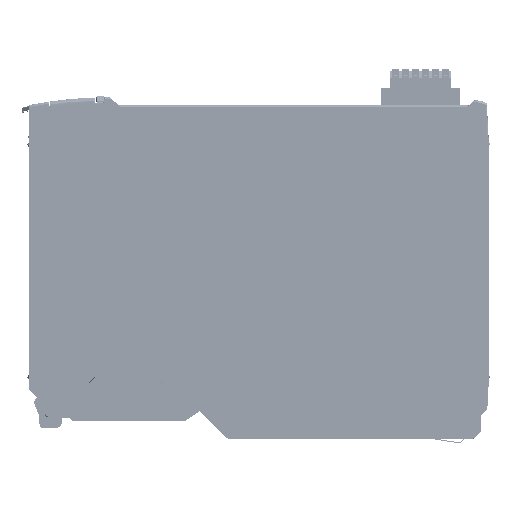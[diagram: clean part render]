
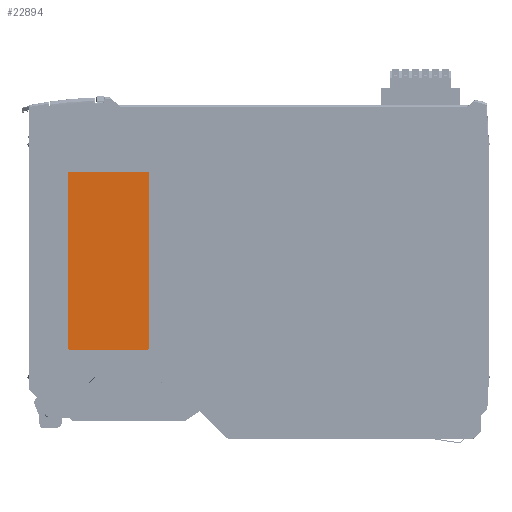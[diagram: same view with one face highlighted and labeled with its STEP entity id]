
A CAD part, left-side view. The second image highlights one B-rep face of the part: STEP entity #22894.
In plain terms, the highlighted planar face has unit normal (-1, 0, 0) as drawn and (0, 0, -1) by its records, which use the part's own axes.
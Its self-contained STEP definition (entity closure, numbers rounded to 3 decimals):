
#2675 = EDGE_CURVE ( 'NONE', #42783, #20059, #66615, .T. ) ;
#11491 = CARTESIAN_POINT ( 'NONE',  ( 37.732, 96.037, 0.3 ) ) ;
#19708 = ORIENTED_EDGE ( 'NONE', *, *, #163899, .T. ) ;
#20059 = VERTEX_POINT ( 'NONE', #65282 ) ;
#20936 = AXIS2_PLACEMENT_3D ( 'NONE', #270732, #159080, #109413 ) ;
#22894 = ADVANCED_FACE ( 'NONE', ( #146710 ), #56826, .T. ) ;
#23626 = DIRECTION ( 'NONE',  ( 0., 0., -1. ) ) ;
#25197 = DIRECTION ( 'NONE',  ( -1., 0., 0. ) ) ;
#29220 = DIRECTION ( 'NONE',  ( 0., 0., -1. ) ) ;
#40277 = VERTEX_POINT ( 'NONE', #78127 ) ;
#42783 = VERTEX_POINT ( 'NONE', #78186 ) ;
#46381 = AXIS2_PLACEMENT_3D ( 'NONE', #207510, #202940, #227734 ) ;
#51483 = LINE ( 'NONE', #141461, #192765 ) ;
#56826 = PLANE ( 'NONE',  #20936 ) ;
#59729 = VERTEX_POINT ( 'NONE', #91949 ) ;
#65282 = CARTESIAN_POINT ( 'NONE',  ( -52.268, 95.037, 0.3 ) ) ;
#65520 = AXIS2_PLACEMENT_3D ( 'NONE', #196608, #29220, #100488 ) ;
#66615 = LINE ( 'NONE', #204628, #305880 ) ;
#67120 = DIRECTION ( 'NONE',  ( 0., -1., 0. ) ) ;
#76177 = VECTOR ( 'NONE', #67120, 1000. ) ;
#76894 = EDGE_CURVE ( 'NONE', #244991, #114485, #254159, .T. ) ;
#78127 = CARTESIAN_POINT ( 'NONE',  ( 37.732, 95.037, 0.3 ) ) ;
#78186 = CARTESIAN_POINT ( 'NONE',  ( -52.268, 56.237, 0.3 ) ) ;
#91949 = CARTESIAN_POINT ( 'NONE',  ( 36.732, 96.037, 0.3 ) ) ;
#98796 = ORIENTED_EDGE ( 'NONE', *, *, #76894, .T. ) ;
#100488 = DIRECTION ( 'NONE',  ( 0., 1., 0. ) ) ;
#109413 = DIRECTION ( 'NONE',  ( 0., 1., 0. ) ) ;
#113251 = AXIS2_PLACEMENT_3D ( 'NONE', #301228, #23626, #118089 ) ;
#114485 = VERTEX_POINT ( 'NONE', #139251 ) ;
#118089 = DIRECTION ( 'NONE',  ( 0., 1., 0. ) ) ;
#118157 = DIRECTION ( 'NONE',  ( 0., 0., -1. ) ) ;
#121342 = VERTEX_POINT ( 'NONE', #250172 ) ;
#121357 = EDGE_CURVE ( 'NONE', #121342, #42783, #158312, .T. ) ;
#121367 = EDGE_CURVE ( 'NONE', #114485, #121342, #51483, .T. ) ;
#124856 = ORIENTED_EDGE ( 'NONE', *, *, #2675, .T. ) ;
#128656 = EDGE_CURVE ( 'NONE', #20059, #174929, #143148, .T. ) ;
#129884 = ORIENTED_EDGE ( 'NONE', *, *, #128656, .T. ) ;
#135358 = LINE ( 'NONE', #158652, #76177 ) ;
#139251 = CARTESIAN_POINT ( 'NONE',  ( 36.732, 55.237, 0.3 ) ) ;
#141461 = CARTESIAN_POINT ( 'NONE',  ( 37.732, 55.237, 0.3 ) ) ;
#143148 = CIRCLE ( 'NONE', #113251, 1. ) ;
#144456 = CARTESIAN_POINT ( 'NONE',  ( -51.268, 56.237, 0.3 ) ) ;
#146710 = FACE_OUTER_BOUND ( 'NONE', #251459, .T. ) ;
#158312 = CIRCLE ( 'NONE', #291989, 1. ) ;
#158652 = CARTESIAN_POINT ( 'NONE',  ( 37.732, 96.037, 0.3 ) ) ;
#159080 = DIRECTION ( 'NONE',  ( 0., 0., -1. ) ) ;
#159608 = CIRCLE ( 'NONE', #65520, 1. ) ;
#163899 = EDGE_CURVE ( 'NONE', #40277, #244991, #135358, .T. ) ;
#164772 = DIRECTION ( 'NONE',  ( 0., 1., 0. ) ) ;
#174929 = VERTEX_POINT ( 'NONE', #240859 ) ;
#179287 = EDGE_CURVE ( 'NONE', #59729, #40277, #159608, .T. ) ;
#180450 = DIRECTION ( 'NONE',  ( 1., 0., 0. ) ) ;
#192765 = VECTOR ( 'NONE', #25197, 1000. ) ;
#196608 = CARTESIAN_POINT ( 'NONE',  ( 36.732, 95.037, 0.3 ) ) ;
#202940 = DIRECTION ( 'NONE',  ( 0., 0., -1. ) ) ;
#204628 = CARTESIAN_POINT ( 'NONE',  ( -52.268, 96.037, 0.3 ) ) ;
#207318 = ORIENTED_EDGE ( 'NONE', *, *, #121357, .T. ) ;
#207510 = CARTESIAN_POINT ( 'NONE',  ( 36.732, 56.237, 0.3 ) ) ;
#210999 = CARTESIAN_POINT ( 'NONE',  ( 37.732, 56.237, 0.3 ) ) ;
#221300 = ORIENTED_EDGE ( 'NONE', *, *, #121367, .T. ) ;
#226690 = ORIENTED_EDGE ( 'NONE', *, *, #179287, .T. ) ;
#227734 = DIRECTION ( 'NONE',  ( 0., 1., 0. ) ) ;
#230922 = DIRECTION ( 'NONE',  ( 0., 1., 0. ) ) ;
#234023 = VECTOR ( 'NONE', #180450, 1000. ) ;
#240859 = CARTESIAN_POINT ( 'NONE',  ( -51.268, 96.037, 0.3 ) ) ;
#244991 = VERTEX_POINT ( 'NONE', #210999 ) ;
#247077 = LINE ( 'NONE', #11491, #234023 ) ;
#250172 = CARTESIAN_POINT ( 'NONE',  ( -51.268, 55.237, 0.3 ) ) ;
#251112 = EDGE_CURVE ( 'NONE', #174929, #59729, #247077, .T. ) ;
#251459 = EDGE_LOOP ( 'NONE', ( #19708, #98796, #221300, #207318, #124856, #129884, #273226, #226690 ) ) ;
#254159 = CIRCLE ( 'NONE', #46381, 1. ) ;
#270732 = CARTESIAN_POINT ( 'NONE',  ( 0., 0., 0.3 ) ) ;
#273226 = ORIENTED_EDGE ( 'NONE', *, *, #251112, .T. ) ;
#291989 = AXIS2_PLACEMENT_3D ( 'NONE', #144456, #118157, #164772 ) ;
#301228 = CARTESIAN_POINT ( 'NONE',  ( -51.268, 95.037, 0.3 ) ) ;
#305880 = VECTOR ( 'NONE', #230922, 1000. ) ;
